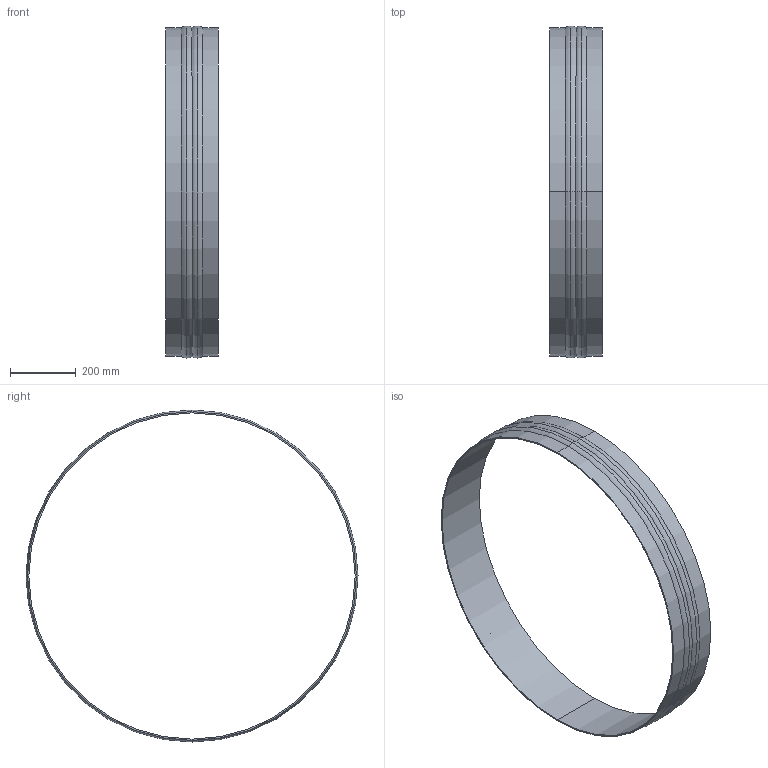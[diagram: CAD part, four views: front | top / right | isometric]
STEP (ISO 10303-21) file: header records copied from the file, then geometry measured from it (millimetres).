
FILE_DESCRIPTION(('STEP AP214'),'1');
FILE_NAME('accessory_5138816300.stp','2017-10-09T09:12:49',('TraceParts'),('TraceParts S.A.'),'Spatial InterOp 3D',' ',' ');
FILE_SCHEMA(('automotive_design'));
Length unit declared in the file: millimetre
Products named in the file (1): accessory_5138816300
Bounding box: 160 x 1009.6 x 1009.6 mm (x, y, z)
Volume: 2692572.2 mm3; surface area: 1038118.1 mm2
Topology: 1 solids, 1 shells, 16 faces, 32 edges, 18 vertices
Faces by surface type: torus 8, cylinder 6, plane 2
Entity records: 570 total; most frequent: DIRECTION 92, CARTESIAN_POINT 67, ORIENTED_EDGE 64, AXIS2_PLACEMENT_3D 43, EDGE_CURVE 32, CIRCLE 26, EDGE_LOOP 18, VERTEX_POINT 18
